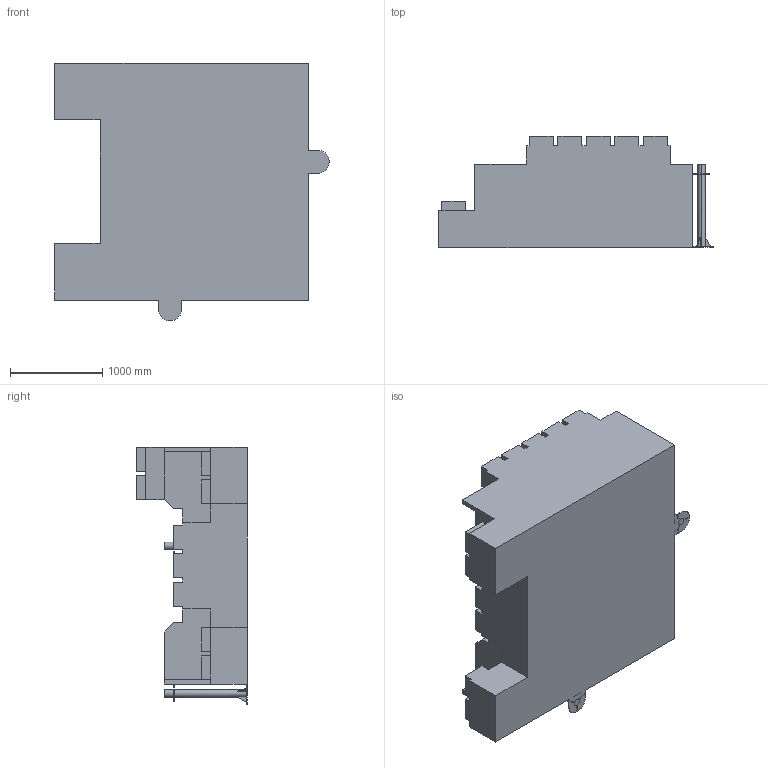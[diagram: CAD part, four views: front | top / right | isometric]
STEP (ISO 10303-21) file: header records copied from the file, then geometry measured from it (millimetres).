
FILE_DESCRIPTION (( 'STEP AP214' ), '1' );
FILE_NAME ('訧埭絢.STEP', '2017-10-11T13:43:06', ( 'USER-' ), ( 'MS' ), 'SwSTEP 2.0', 'SolidWorks 2016', '' );
FILE_SCHEMA (( 'AUTOMOTIVE_DESIGN' ));
Length unit declared in the file: millimetre
Products named in the file (1): 訧埭絢
Bounding box: 2975 x 1200 x 2795 mm (x, y, z)
Volume: 3233997587.8 mm3; surface area: 27822226.1 mm2
Topology: 1 solids, 1 shells, 572 faces, 1581 edges, 1054 vertices
Faces by surface type: plane 479, bspline 70, cylinder 23
Entity records: 20562 total; most frequent: CARTESIAN_POINT 6363, ORIENTED_EDGE 3162, DIRECTION 2491, EDGE_CURVE 1581, LINE 1383, VECTOR 1383, VERTEX_POINT 1054, EDGE_LOOP 615
